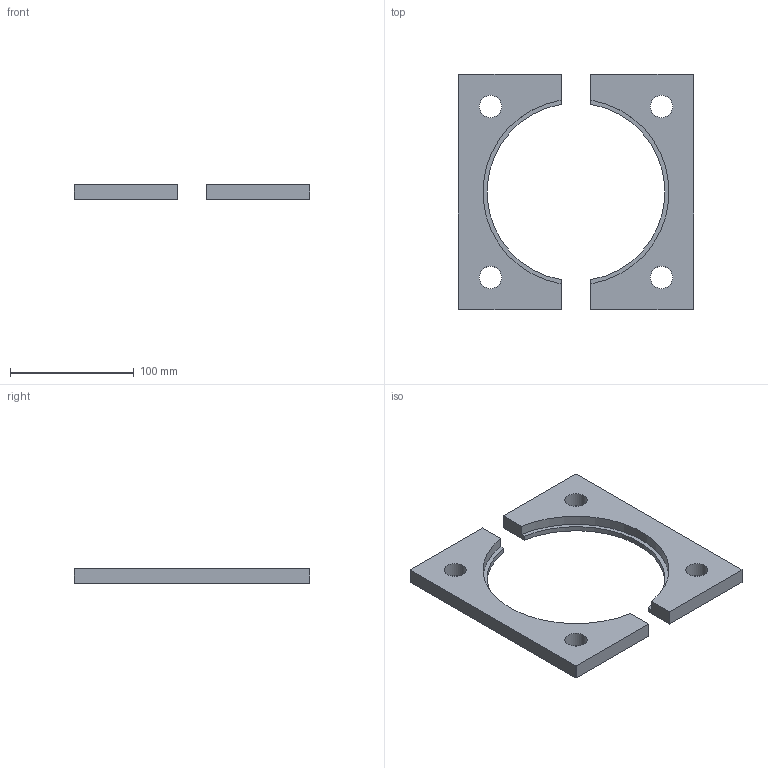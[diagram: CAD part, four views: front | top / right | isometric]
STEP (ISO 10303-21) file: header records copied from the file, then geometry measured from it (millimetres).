
FILE_DESCRIPTION(/* description */ (''),/* implementation_level */ '2;1');
FILE_NAME(/* name */ 'C:\Users\Jefferson\Desktop\Biblioteca Pro Nitro 2024\Flanges\PNB-55-XXX\PNB-55-150.stp',/* time_stamp */ '2024-01-26T15:48:41-03:00',/* author */ ('Jefferson'),/* organization */ (''),/* preprocessor_version */ 'ST-DEVELOPER v18.1',/* originating_system */ 'Autodesk Inventor 2021',/* authorisation */ '');
FILE_SCHEMA (('AUTOMOTIVE_DESIGN { 1 0 10303 214 3 1 1 }'));
Length unit declared in the file: millimetre
Products named in the file (1): PNB-55-150
Bounding box: 190 x 190 x 12 mm (x, y, z)
Volume: 202236.2 mm3; surface area: 52876.1 mm2
Topology: 2 solids, 2 shells, 183 faces, 495 edges, 330 vertices
Faces by surface type: plane 101, bspline 74, cylinder 8
Full cylindrical faces by diameter (mm): 18 x4
Entity records: 6145 total; most frequent: CARTESIAN_POINT 1971, ORIENTED_EDGE 990, DIRECTION 583, EDGE_CURVE 495, LINE 331, VECTOR 331, VERTEX_POINT 330, EDGE_LOOP 205
